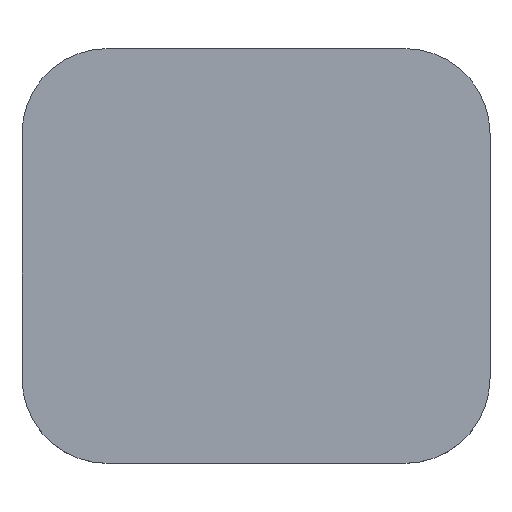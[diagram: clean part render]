
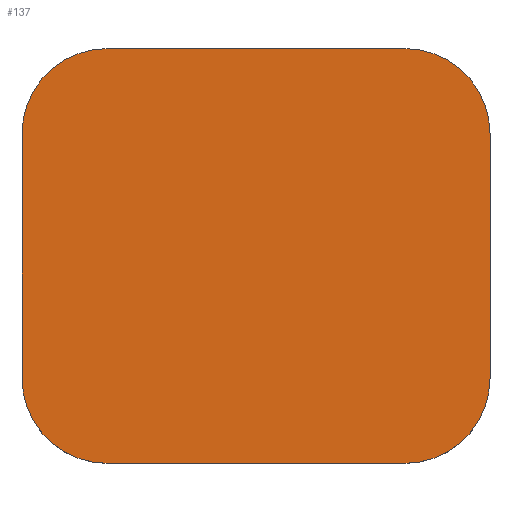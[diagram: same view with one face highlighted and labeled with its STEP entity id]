
A CAD part, top view. The second image highlights one B-rep face of the part: STEP entity #137.
In plain terms, the highlighted planar face has unit normal (0, 0, 1).
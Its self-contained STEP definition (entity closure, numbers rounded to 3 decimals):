
#21 = EDGE_CURVE('',#22,#24,#26,.T.);
#22 = VERTEX_POINT('',#23);
#23 = CARTESIAN_POINT('',(-22.,8.5,26.));
#24 = VERTEX_POINT('',#25);
#25 = CARTESIAN_POINT('',(-22.,31.5,26.));
#26 = SURFACE_CURVE('',#27,(#31,#43),.PCURVE_S1.);
#27 = LINE('',#28,#29);
#28 = CARTESIAN_POINT('',(-22.,0.5,26.));
#29 = VECTOR('',#30,1.);
#30 = DIRECTION('',(0.,1.,0.));
#31 = PCURVE('',#32,#37);
#32 = PLANE('',#33);
#33 = AXIS2_PLACEMENT_3D('',#34,#35,#36);
#34 = CARTESIAN_POINT('',(-22.,0.5,21.));
#35 = DIRECTION('',(1.,0.,0.));
#36 = DIRECTION('',(0.,0.,1.));
#37 = DEFINITIONAL_REPRESENTATION('',(#38),#42);
#38 = LINE('',#39,#40);
#39 = CARTESIAN_POINT('',(5.,0.));
#40 = VECTOR('',#41,1.);
#41 = DIRECTION('',(0.,-1.));
#42 = ( GEOMETRIC_REPRESENTATION_CONTEXT(2) 
PARAMETRIC_REPRESENTATION_CONTEXT() REPRESENTATION_CONTEXT('2D SPACE',''
  ) );
#43 = PCURVE('',#44,#49);
#44 = PLANE('',#45);
#45 = AXIS2_PLACEMENT_3D('',#46,#47,#48);
#46 = CARTESIAN_POINT('',(-22.,0.5,26.));
#47 = DIRECTION('',(0.,0.,1.));
#48 = DIRECTION('',(1.,0.,-0.));
#49 = DEFINITIONAL_REPRESENTATION('',(#50),#54);
#50 = LINE('',#51,#52);
#51 = CARTESIAN_POINT('',(0.,0.));
#52 = VECTOR('',#53,1.);
#53 = DIRECTION('',(0.,1.));
#54 = ( GEOMETRIC_REPRESENTATION_CONTEXT(2) 
PARAMETRIC_REPRESENTATION_CONTEXT() REPRESENTATION_CONTEXT('2D SPACE',''
  ) );
#72 = CYLINDRICAL_SURFACE('',#73,8.);
#73 = AXIS2_PLACEMENT_3D('',#74,#75,#76);
#74 = CARTESIAN_POINT('',(-14.,8.5,21.));
#75 = DIRECTION('',(0.,0.,1.));
#76 = DIRECTION('',(-1.,-0.,0.));
#126 = CYLINDRICAL_SURFACE('',#127,8.);
#127 = AXIS2_PLACEMENT_3D('',#128,#129,#130);
#128 = CARTESIAN_POINT('',(-14.,31.5,21.));
#129 = DIRECTION('',(0.,0.,1.));
#130 = DIRECTION('',(-1.,-0.,0.));
#137 = ADVANCED_FACE('',(#138),#44,.T.);
#138 = FACE_BOUND('',#139,.T.);
#139 = EDGE_LOOP('',(#140,#141,#165,#193,#226,#254,#283,#311));
#140 = ORIENTED_EDGE('',*,*,#21,.F.);
#141 = ORIENTED_EDGE('',*,*,#142,.T.);
#142 = EDGE_CURVE('',#22,#143,#145,.T.);
#143 = VERTEX_POINT('',#144);
#144 = CARTESIAN_POINT('',(-14.,0.5,26.));
#145 = SURFACE_CURVE('',#146,(#151,#158),.PCURVE_S1.);
#146 = CIRCLE('',#147,8.);
#147 = AXIS2_PLACEMENT_3D('',#148,#149,#150);
#148 = CARTESIAN_POINT('',(-14.,8.5,26.));
#149 = DIRECTION('',(0.,0.,1.));
#150 = DIRECTION('',(0.,-1.,0.));
#151 = PCURVE('',#44,#152);
#152 = DEFINITIONAL_REPRESENTATION('',(#153),#157);
#153 = CIRCLE('',#154,8.);
#154 = AXIS2_PLACEMENT_2D('',#155,#156);
#155 = CARTESIAN_POINT('',(8.,8.));
#156 = DIRECTION('',(0.,-1.));
#157 = ( GEOMETRIC_REPRESENTATION_CONTEXT(2) 
PARAMETRIC_REPRESENTATION_CONTEXT() REPRESENTATION_CONTEXT('2D SPACE',''
  ) );
#158 = PCURVE('',#72,#159);
#159 = DEFINITIONAL_REPRESENTATION('',(#160),#164);
#160 = LINE('',#161,#162);
#161 = CARTESIAN_POINT('',(-4.712,5.));
#162 = VECTOR('',#163,1.);
#163 = DIRECTION('',(1.,0.));
#164 = ( GEOMETRIC_REPRESENTATION_CONTEXT(2) 
PARAMETRIC_REPRESENTATION_CONTEXT() REPRESENTATION_CONTEXT('2D SPACE',''
  ) );
#165 = ORIENTED_EDGE('',*,*,#166,.T.);
#166 = EDGE_CURVE('',#143,#167,#169,.T.);
#167 = VERTEX_POINT('',#168);
#168 = CARTESIAN_POINT('',(14.,0.5,26.));
#169 = SURFACE_CURVE('',#170,(#174,#181),.PCURVE_S1.);
#170 = LINE('',#171,#172);
#171 = CARTESIAN_POINT('',(-22.,0.5,26.));
#172 = VECTOR('',#173,1.);
#173 = DIRECTION('',(1.,0.,0.));
#174 = PCURVE('',#44,#175);
#175 = DEFINITIONAL_REPRESENTATION('',(#176),#180);
#176 = LINE('',#177,#178);
#177 = CARTESIAN_POINT('',(0.,0.));
#178 = VECTOR('',#179,1.);
#179 = DIRECTION('',(1.,0.));
#180 = ( GEOMETRIC_REPRESENTATION_CONTEXT(2) 
PARAMETRIC_REPRESENTATION_CONTEXT() REPRESENTATION_CONTEXT('2D SPACE',''
  ) );
#181 = PCURVE('',#182,#187);
#182 = PLANE('',#183);
#183 = AXIS2_PLACEMENT_3D('',#184,#185,#186);
#184 = CARTESIAN_POINT('',(-22.,0.5,21.));
#185 = DIRECTION('',(0.,1.,0.));
#186 = DIRECTION('',(0.,-0.,1.));
#187 = DEFINITIONAL_REPRESENTATION('',(#188),#192);
#188 = LINE('',#189,#190);
#189 = CARTESIAN_POINT('',(5.,0.));
#190 = VECTOR('',#191,1.);
#191 = DIRECTION('',(0.,1.));
#192 = ( GEOMETRIC_REPRESENTATION_CONTEXT(2) 
PARAMETRIC_REPRESENTATION_CONTEXT() REPRESENTATION_CONTEXT('2D SPACE',''
  ) );
#193 = ORIENTED_EDGE('',*,*,#194,.F.);
#194 = EDGE_CURVE('',#195,#167,#197,.T.);
#195 = VERTEX_POINT('',#196);
#196 = CARTESIAN_POINT('',(22.,8.5,26.));
#197 = SURFACE_CURVE('',#198,(#203,#214),.PCURVE_S1.);
#198 = CIRCLE('',#199,8.);
#199 = AXIS2_PLACEMENT_3D('',#200,#201,#202);
#200 = CARTESIAN_POINT('',(14.,8.5,26.));
#201 = DIRECTION('',(-0.,-0.,-1.));
#202 = DIRECTION('',(0.,-1.,0.));
#203 = PCURVE('',#44,#204);
#204 = DEFINITIONAL_REPRESENTATION('',(#205),#213);
#205 = ( BOUNDED_CURVE() B_SPLINE_CURVE(2,(#206,#207,#208,#209,#210,#211
,#212),.UNSPECIFIED.,.T.,.F.) B_SPLINE_CURVE_WITH_KNOTS((1,2,2,2,2,1),(
    -2.094,0.,2.094,4.189,6.283,
8.378),.UNSPECIFIED.) CURVE() GEOMETRIC_REPRESENTATION_ITEM() 
RATIONAL_B_SPLINE_CURVE((1.,0.5,1.,0.5,1.,0.5,1.)) REPRESENTATION_ITEM(
  '') );
#206 = CARTESIAN_POINT('',(36.,0.));
#207 = CARTESIAN_POINT('',(22.144,0.));
#208 = CARTESIAN_POINT('',(29.072,12.));
#209 = CARTESIAN_POINT('',(36.,24.));
#210 = CARTESIAN_POINT('',(42.928,12.));
#211 = CARTESIAN_POINT('',(49.856,0.));
#212 = CARTESIAN_POINT('',(36.,0.));
#213 = ( GEOMETRIC_REPRESENTATION_CONTEXT(2) 
PARAMETRIC_REPRESENTATION_CONTEXT() REPRESENTATION_CONTEXT('2D SPACE',''
  ) );
#214 = PCURVE('',#215,#220);
#215 = CYLINDRICAL_SURFACE('',#216,8.);
#216 = AXIS2_PLACEMENT_3D('',#217,#218,#219);
#217 = CARTESIAN_POINT('',(14.,8.5,21.));
#218 = DIRECTION('',(0.,0.,1.));
#219 = DIRECTION('',(1.,0.,-0.));
#220 = DEFINITIONAL_REPRESENTATION('',(#221),#225);
#221 = LINE('',#222,#223);
#222 = CARTESIAN_POINT('',(10.996,5.));
#223 = VECTOR('',#224,1.);
#224 = DIRECTION('',(-1.,0.));
#225 = ( GEOMETRIC_REPRESENTATION_CONTEXT(2) 
PARAMETRIC_REPRESENTATION_CONTEXT() REPRESENTATION_CONTEXT('2D SPACE',''
  ) );
#226 = ORIENTED_EDGE('',*,*,#227,.T.);
#227 = EDGE_CURVE('',#195,#228,#230,.T.);
#228 = VERTEX_POINT('',#229);
#229 = CARTESIAN_POINT('',(22.,31.5,26.));
#230 = SURFACE_CURVE('',#231,(#235,#242),.PCURVE_S1.);
#231 = LINE('',#232,#233);
#232 = CARTESIAN_POINT('',(22.,0.5,26.));
#233 = VECTOR('',#234,1.);
#234 = DIRECTION('',(0.,1.,0.));
#235 = PCURVE('',#44,#236);
#236 = DEFINITIONAL_REPRESENTATION('',(#237),#241);
#237 = LINE('',#238,#239);
#238 = CARTESIAN_POINT('',(44.,0.));
#239 = VECTOR('',#240,1.);
#240 = DIRECTION('',(0.,1.));
#241 = ( GEOMETRIC_REPRESENTATION_CONTEXT(2) 
PARAMETRIC_REPRESENTATION_CONTEXT() REPRESENTATION_CONTEXT('2D SPACE',''
  ) );
#242 = PCURVE('',#243,#248);
#243 = PLANE('',#244);
#244 = AXIS2_PLACEMENT_3D('',#245,#246,#247);
#245 = CARTESIAN_POINT('',(22.,0.5,21.));
#246 = DIRECTION('',(1.,0.,0.));
#247 = DIRECTION('',(0.,0.,1.));
#248 = DEFINITIONAL_REPRESENTATION('',(#249),#253);
#249 = LINE('',#250,#251);
#250 = CARTESIAN_POINT('',(5.,0.));
#251 = VECTOR('',#252,1.);
#252 = DIRECTION('',(0.,-1.));
#253 = ( GEOMETRIC_REPRESENTATION_CONTEXT(2) 
PARAMETRIC_REPRESENTATION_CONTEXT() REPRESENTATION_CONTEXT('2D SPACE',''
  ) );
#254 = ORIENTED_EDGE('',*,*,#255,.T.);
#255 = EDGE_CURVE('',#228,#256,#258,.T.);
#256 = VERTEX_POINT('',#257);
#257 = CARTESIAN_POINT('',(14.,39.5,26.));
#258 = SURFACE_CURVE('',#259,(#264,#271),.PCURVE_S1.);
#259 = CIRCLE('',#260,8.);
#260 = AXIS2_PLACEMENT_3D('',#261,#262,#263);
#261 = CARTESIAN_POINT('',(14.,31.5,26.));
#262 = DIRECTION('',(0.,0.,1.));
#263 = DIRECTION('',(0.,-1.,0.));
#264 = PCURVE('',#44,#265);
#265 = DEFINITIONAL_REPRESENTATION('',(#266),#270);
#266 = CIRCLE('',#267,8.);
#267 = AXIS2_PLACEMENT_2D('',#268,#269);
#268 = CARTESIAN_POINT('',(36.,31.));
#269 = DIRECTION('',(0.,-1.));
#270 = ( GEOMETRIC_REPRESENTATION_CONTEXT(2) 
PARAMETRIC_REPRESENTATION_CONTEXT() REPRESENTATION_CONTEXT('2D SPACE',''
  ) );
#271 = PCURVE('',#272,#277);
#272 = CYLINDRICAL_SURFACE('',#273,8.);
#273 = AXIS2_PLACEMENT_3D('',#274,#275,#276);
#274 = CARTESIAN_POINT('',(14.,31.5,21.));
#275 = DIRECTION('',(0.,0.,1.));
#276 = DIRECTION('',(1.,0.,-0.));
#277 = DEFINITIONAL_REPRESENTATION('',(#278),#282);
#278 = LINE('',#279,#280);
#279 = CARTESIAN_POINT('',(-1.571,5.));
#280 = VECTOR('',#281,1.);
#281 = DIRECTION('',(1.,0.));
#282 = ( GEOMETRIC_REPRESENTATION_CONTEXT(2) 
PARAMETRIC_REPRESENTATION_CONTEXT() REPRESENTATION_CONTEXT('2D SPACE',''
  ) );
#283 = ORIENTED_EDGE('',*,*,#284,.F.);
#284 = EDGE_CURVE('',#285,#256,#287,.T.);
#285 = VERTEX_POINT('',#286);
#286 = CARTESIAN_POINT('',(-14.,39.5,26.));
#287 = SURFACE_CURVE('',#288,(#292,#299),.PCURVE_S1.);
#288 = LINE('',#289,#290);
#289 = CARTESIAN_POINT('',(-22.,39.5,26.));
#290 = VECTOR('',#291,1.);
#291 = DIRECTION('',(1.,0.,0.));
#292 = PCURVE('',#44,#293);
#293 = DEFINITIONAL_REPRESENTATION('',(#294),#298);
#294 = LINE('',#295,#296);
#295 = CARTESIAN_POINT('',(0.,39.));
#296 = VECTOR('',#297,1.);
#297 = DIRECTION('',(1.,0.));
#298 = ( GEOMETRIC_REPRESENTATION_CONTEXT(2) 
PARAMETRIC_REPRESENTATION_CONTEXT() REPRESENTATION_CONTEXT('2D SPACE',''
  ) );
#299 = PCURVE('',#300,#305);
#300 = PLANE('',#301);
#301 = AXIS2_PLACEMENT_3D('',#302,#303,#304);
#302 = CARTESIAN_POINT('',(-22.,39.5,21.));
#303 = DIRECTION('',(0.,1.,0.));
#304 = DIRECTION('',(0.,-0.,1.));
#305 = DEFINITIONAL_REPRESENTATION('',(#306),#310);
#306 = LINE('',#307,#308);
#307 = CARTESIAN_POINT('',(5.,0.));
#308 = VECTOR('',#309,1.);
#309 = DIRECTION('',(0.,1.));
#310 = ( GEOMETRIC_REPRESENTATION_CONTEXT(2) 
PARAMETRIC_REPRESENTATION_CONTEXT() REPRESENTATION_CONTEXT('2D SPACE',''
  ) );
#311 = ORIENTED_EDGE('',*,*,#312,.F.);
#312 = EDGE_CURVE('',#24,#285,#313,.T.);
#313 = SURFACE_CURVE('',#314,(#319,#330),.PCURVE_S1.);
#314 = CIRCLE('',#315,8.);
#315 = AXIS2_PLACEMENT_3D('',#316,#317,#318);
#316 = CARTESIAN_POINT('',(-14.,31.5,26.));
#317 = DIRECTION('',(-0.,-0.,-1.));
#318 = DIRECTION('',(0.,-1.,0.));
#319 = PCURVE('',#44,#320);
#320 = DEFINITIONAL_REPRESENTATION('',(#321),#329);
#321 = ( BOUNDED_CURVE() B_SPLINE_CURVE(2,(#322,#323,#324,#325,#326,#327
,#328),.UNSPECIFIED.,.T.,.F.) B_SPLINE_CURVE_WITH_KNOTS((1,2,2,2,2,1),(
    -2.094,0.,2.094,4.189,6.283,
8.378),.UNSPECIFIED.) CURVE() GEOMETRIC_REPRESENTATION_ITEM() 
RATIONAL_B_SPLINE_CURVE((1.,0.5,1.,0.5,1.,0.5,1.)) REPRESENTATION_ITEM(
  '') );
#322 = CARTESIAN_POINT('',(8.,23.));
#323 = CARTESIAN_POINT('',(-5.856,23.));
#324 = CARTESIAN_POINT('',(1.072,35.));
#325 = CARTESIAN_POINT('',(8.,47.));
#326 = CARTESIAN_POINT('',(14.928,35.));
#327 = CARTESIAN_POINT('',(21.856,23.));
#328 = CARTESIAN_POINT('',(8.,23.));
#329 = ( GEOMETRIC_REPRESENTATION_CONTEXT(2) 
PARAMETRIC_REPRESENTATION_CONTEXT() REPRESENTATION_CONTEXT('2D SPACE',''
  ) );
#330 = PCURVE('',#126,#331);
#331 = DEFINITIONAL_REPRESENTATION('',(#332),#336);
#332 = LINE('',#333,#334);
#333 = CARTESIAN_POINT('',(7.854,5.));
#334 = VECTOR('',#335,1.);
#335 = DIRECTION('',(-1.,0.));
#336 = ( GEOMETRIC_REPRESENTATION_CONTEXT(2) 
PARAMETRIC_REPRESENTATION_CONTEXT() REPRESENTATION_CONTEXT('2D SPACE',''
  ) );
